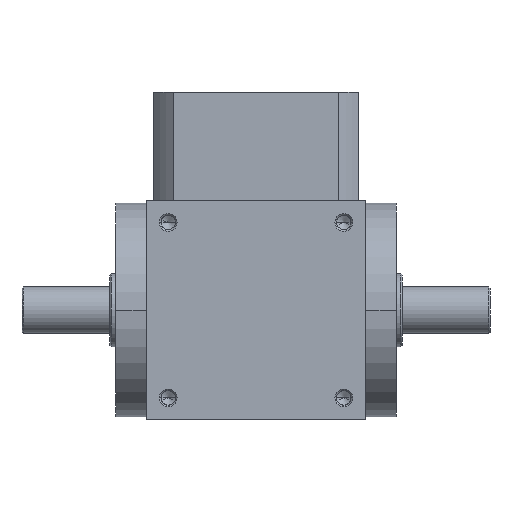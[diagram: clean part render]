
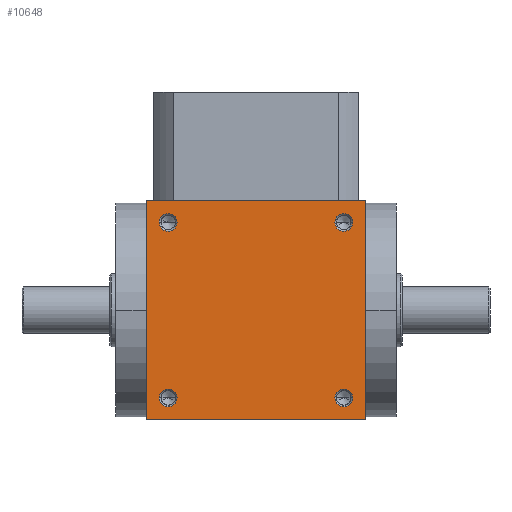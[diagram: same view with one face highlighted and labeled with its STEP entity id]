
A CAD part, front view. The second image highlights one B-rep face of the part: STEP entity #10648.
In plain terms, the highlighted planar face has unit normal (0, -1, 0).
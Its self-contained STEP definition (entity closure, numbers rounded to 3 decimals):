
#1 = VERTEX_POINT ( 'NONE', #6906 ) ;
#129 = CARTESIAN_POINT ( 'NONE',  ( -27.183, -49.572, -14. ) ) ;
#187 = CARTESIAN_POINT ( 'NONE',  ( -34.683, -49.572, 53.5 ) ) ;
#381 = DIRECTION ( 'NONE',  ( 0., -1., 0. ) ) ;
#480 = DIRECTION ( 'NONE',  ( -1., 0., 0. ) ) ;
#538 = VERTEX_POINT ( 'NONE', #7209 ) ;
#603 = AXIS2_PLACEMENT_3D ( 'NONE', #6999, #8987, #480 ) ;
#740 = CARTESIAN_POINT ( 'NONE',  ( -24.158, -49.572, 46. ) ) ;
#789 = DIRECTION ( 'NONE',  ( -1., 0., 0. ) ) ;
#985 = CARTESIAN_POINT ( 'NONE',  ( -27.183, -49.572, -14. ) ) ;
#988 = FACE_BOUND ( 'NONE', #1247, .T. ) ;
#1066 = AXIS2_PLACEMENT_3D ( 'NONE', #9288, #10279, #789 ) ;
#1167 = ORIENTED_EDGE ( 'NONE', *, *, #2931, .F. ) ;
#1173 = AXIS2_PLACEMENT_3D ( 'NONE', #9111, #2783, #6754 ) ;
#1247 = EDGE_LOOP ( 'NONE', ( #2177, #10926 ) ) ;
#1422 = EDGE_LOOP ( 'NONE', ( #4523, #4755 ) ) ;
#1472 = EDGE_LOOP ( 'NONE', ( #11908, #9642, #5531, #7673 ) ) ;
#1549 = DIRECTION ( 'NONE',  ( 0., -1., 0. ) ) ;
#1640 = VERTEX_POINT ( 'NONE', #4777 ) ;
#1658 = CIRCLE ( 'NONE', #8610, 3.025 ) ;
#1727 = DIRECTION ( 'NONE',  ( 1., 0., 0. ) ) ;
#1767 = CIRCLE ( 'NONE', #1173, 3.025 ) ;
#1912 = DIRECTION ( 'NONE',  ( -1., 0., 0. ) ) ;
#1914 = PLANE ( 'NONE',  #6990 ) ;
#1959 = ORIENTED_EDGE ( 'NONE', *, *, #8986, .F. ) ;
#1969 = FACE_BOUND ( 'NONE', #10978, .T. ) ;
#2177 = ORIENTED_EDGE ( 'NONE', *, *, #11849, .F. ) ;
#2329 = CARTESIAN_POINT ( 'NONE',  ( -24.158, -49.572, -14. ) ) ;
#2357 = DIRECTION ( 'NONE',  ( -1., 0., 0. ) ) ;
#2396 = VERTEX_POINT ( 'NONE', #9808 ) ;
#2783 = DIRECTION ( 'NONE',  ( 0., -1., 0. ) ) ;
#2831 = VERTEX_POINT ( 'NONE', #7878 ) ;
#2907 = EDGE_CURVE ( 'NONE', #6257, #2396, #11668, .T. ) ;
#2931 = EDGE_CURVE ( 'NONE', #1, #538, #3155, .T. ) ;
#3155 = CIRCLE ( 'NONE', #11641, 3.025 ) ;
#3746 = EDGE_CURVE ( 'NONE', #7346, #6044, #1658, .T. ) ;
#4004 = VECTOR ( 'NONE', #4026, 1000. ) ;
#4026 = DIRECTION ( 'NONE',  ( -1., 0., 0. ) ) ;
#4226 = CARTESIAN_POINT ( 'NONE',  ( -34.683, -49.572, -21.5 ) ) ;
#4280 = LINE ( 'NONE', #4226, #5003 ) ;
#4523 = ORIENTED_EDGE ( 'NONE', *, *, #8338, .F. ) ;
#4751 = AXIS2_PLACEMENT_3D ( 'NONE', #129, #7699, #11893 ) ;
#4755 = ORIENTED_EDGE ( 'NONE', *, *, #3746, .F. ) ;
#4757 = CARTESIAN_POINT ( 'NONE',  ( -30.208, -49.572, 46. ) ) ;
#4777 = CARTESIAN_POINT ( 'NONE',  ( -34.683, -49.572, 53.5 ) ) ;
#4789 = VECTOR ( 'NONE', #5029, 1000. ) ;
#4823 = CIRCLE ( 'NONE', #1066, 3.025 ) ;
#4950 = CARTESIAN_POINT ( 'NONE',  ( -34.683, -49.572, -21.5 ) ) ;
#5003 = VECTOR ( 'NONE', #7263, 1000. ) ;
#5029 = DIRECTION ( 'NONE',  ( 1., 0., 0. ) ) ;
#5081 = DIRECTION ( 'NONE',  ( -1., 0., 0. ) ) ;
#5172 = ORIENTED_EDGE ( 'NONE', *, *, #2907, .F. ) ;
#5223 = CIRCLE ( 'NONE', #6214, 3.025 ) ;
#5406 = CARTESIAN_POINT ( 'NONE',  ( -34.683, -49.572, -21.5 ) ) ;
#5459 = DIRECTION ( 'NONE',  ( 0., 0., -1. ) ) ;
#5500 = EDGE_CURVE ( 'NONE', #8674, #2831, #7974, .T. ) ;
#5531 = ORIENTED_EDGE ( 'NONE', *, *, #5500, .F. ) ;
#5601 = AXIS2_PLACEMENT_3D ( 'NONE', #9932, #9995, #2357 ) ;
#5802 = EDGE_CURVE ( 'NONE', #2831, #8289, #10837, .T. ) ;
#5931 = CARTESIAN_POINT ( 'NONE',  ( 29.792, -49.572, 46. ) ) ;
#6044 = VERTEX_POINT ( 'NONE', #4757 ) ;
#6164 = EDGE_LOOP ( 'NONE', ( #7434, #5172 ) ) ;
#6214 = AXIS2_PLACEMENT_3D ( 'NONE', #985, #6819, #1912 ) ;
#6257 = VERTEX_POINT ( 'NONE', #2329 ) ;
#6640 = DIRECTION ( 'NONE',  ( 0., 1., 0. ) ) ;
#6754 = DIRECTION ( 'NONE',  ( -1., 0., 0. ) ) ;
#6819 = DIRECTION ( 'NONE',  ( 0., -1., 0. ) ) ;
#6906 = CARTESIAN_POINT ( 'NONE',  ( 35.842, -49.572, -14. ) ) ;
#6990 = AXIS2_PLACEMENT_3D ( 'NONE', #7572, #6640, #1727 ) ;
#6999 = CARTESIAN_POINT ( 'NONE',  ( 32.817, -49.572, 46. ) ) ;
#7209 = CARTESIAN_POINT ( 'NONE',  ( 29.792, -49.572, -14. ) ) ;
#7263 = DIRECTION ( 'NONE',  ( 0., 0., 1. ) ) ;
#7346 = VERTEX_POINT ( 'NONE', #740 ) ;
#7434 = ORIENTED_EDGE ( 'NONE', *, *, #9088, .F. ) ;
#7554 = CARTESIAN_POINT ( 'NONE',  ( -27.183, -49.572, 46. ) ) ;
#7572 = CARTESIAN_POINT ( 'NONE',  ( 2.817, -49.572, 16. ) ) ;
#7597 = CIRCLE ( 'NONE', #5601, 3.025 ) ;
#7636 = FACE_BOUND ( 'NONE', #6164, .T. ) ;
#7673 = ORIENTED_EDGE ( 'NONE', *, *, #10474, .F. ) ;
#7699 = DIRECTION ( 'NONE',  ( 0., -1., 0. ) ) ;
#7878 = CARTESIAN_POINT ( 'NONE',  ( 40.317, -49.572, -21.5 ) ) ;
#7943 = CARTESIAN_POINT ( 'NONE',  ( 32.817, -49.572, -14. ) ) ;
#7974 = LINE ( 'NONE', #11089, #11324 ) ;
#8255 = CARTESIAN_POINT ( 'NONE',  ( 35.842, -49.572, 46. ) ) ;
#8289 = VERTEX_POINT ( 'NONE', #5406 ) ;
#8296 = EDGE_CURVE ( 'NONE', #8289, #1640, #4280, .T. ) ;
#8338 = EDGE_CURVE ( 'NONE', #6044, #7346, #7597, .T. ) ;
#8610 = AXIS2_PLACEMENT_3D ( 'NONE', #7554, #381, #11322 ) ;
#8674 = VERTEX_POINT ( 'NONE', #12172 ) ;
#8694 = LINE ( 'NONE', #187, #4789 ) ;
#8986 = EDGE_CURVE ( 'NONE', #538, #1, #4823, .T. ) ;
#8987 = DIRECTION ( 'NONE',  ( 0., -1., 0. ) ) ;
#9088 = EDGE_CURVE ( 'NONE', #2396, #6257, #5223, .T. ) ;
#9111 = CARTESIAN_POINT ( 'NONE',  ( 32.817, -49.572, 46. ) ) ;
#9288 = CARTESIAN_POINT ( 'NONE',  ( 32.817, -49.572, -14. ) ) ;
#9291 = EDGE_CURVE ( 'NONE', #11753, #11992, #10698, .T. ) ;
#9642 = ORIENTED_EDGE ( 'NONE', *, *, #5802, .F. ) ;
#9808 = CARTESIAN_POINT ( 'NONE',  ( -30.208, -49.572, -14. ) ) ;
#9932 = CARTESIAN_POINT ( 'NONE',  ( -27.183, -49.572, 46. ) ) ;
#9995 = DIRECTION ( 'NONE',  ( 0., -1., 0. ) ) ;
#10279 = DIRECTION ( 'NONE',  ( 0., -1., 0. ) ) ;
#10474 = EDGE_CURVE ( 'NONE', #1640, #8674, #8694, .T. ) ;
#10648 = ADVANCED_FACE ( 'NONE', ( #1969, #11212, #7636, #988, #11397 ), #1914, .F. ) ;
#10698 = CIRCLE ( 'NONE', #603, 3.025 ) ;
#10837 = LINE ( 'NONE', #4950, #4004 ) ;
#10926 = ORIENTED_EDGE ( 'NONE', *, *, #9291, .F. ) ;
#10978 = EDGE_LOOP ( 'NONE', ( #1959, #1167 ) ) ;
#11089 = CARTESIAN_POINT ( 'NONE',  ( 40.317, -49.572, -21.5 ) ) ;
#11212 = FACE_BOUND ( 'NONE', #1422, .T. ) ;
#11322 = DIRECTION ( 'NONE',  ( -1., 0., 0. ) ) ;
#11324 = VECTOR ( 'NONE', #5459, 1000. ) ;
#11397 = FACE_OUTER_BOUND ( 'NONE', #1472, .T. ) ;
#11641 = AXIS2_PLACEMENT_3D ( 'NONE', #7943, #1549, #5081 ) ;
#11668 = CIRCLE ( 'NONE', #4751, 3.025 ) ;
#11753 = VERTEX_POINT ( 'NONE', #8255 ) ;
#11849 = EDGE_CURVE ( 'NONE', #11992, #11753, #1767, .T. ) ;
#11893 = DIRECTION ( 'NONE',  ( -1., 0., 0. ) ) ;
#11908 = ORIENTED_EDGE ( 'NONE', *, *, #8296, .F. ) ;
#11992 = VERTEX_POINT ( 'NONE', #5931 ) ;
#12172 = CARTESIAN_POINT ( 'NONE',  ( 40.317, -49.572, 53.5 ) ) ;
